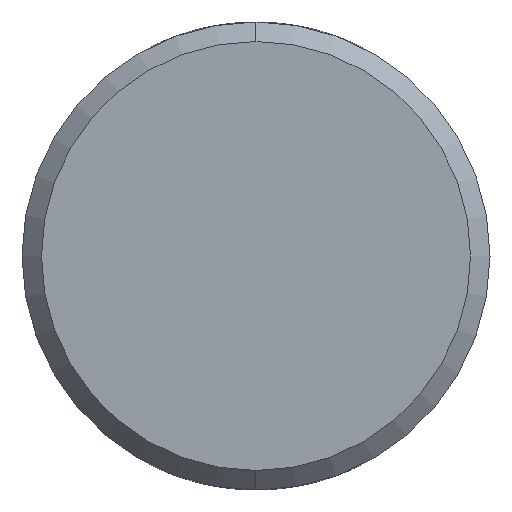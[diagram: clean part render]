
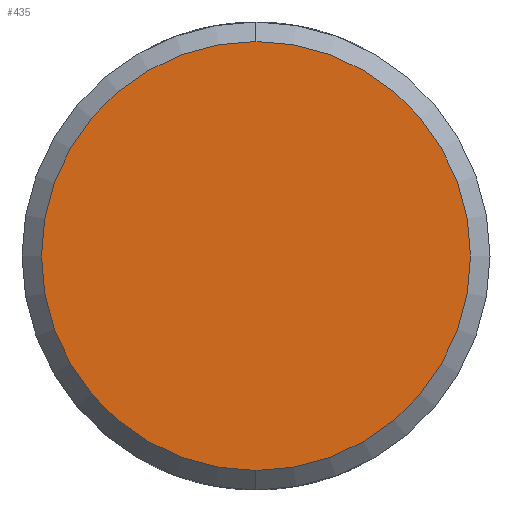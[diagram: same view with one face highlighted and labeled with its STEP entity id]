
A CAD part, left-side view. The second image highlights one B-rep face of the part: STEP entity #435.
In plain terms, the highlighted planar face has unit normal (-1, 0, 0).
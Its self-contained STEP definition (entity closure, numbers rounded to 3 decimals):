
#91 = ORIENTED_EDGE ( 'NONE', *, *, #487, .T. ) ;
#128 = DIRECTION ( 'NONE',  ( 0., 0., -1. ) ) ;
#225 = AXIS2_PLACEMENT_3D ( 'NONE', #528, #382, #603 ) ;
#252 = EDGE_CURVE ( 'NONE', #522, #640, #639, .T. ) ;
#266 = AXIS2_PLACEMENT_3D ( 'NONE', #564, #902, #328 ) ;
#298 = CARTESIAN_POINT ( 'NONE',  ( -29., 0., 5.5 ) ) ;
#328 = DIRECTION ( 'NONE',  ( 0., 0., -1. ) ) ;
#349 = EDGE_LOOP ( 'NONE', ( #91, #829 ) ) ;
#382 = DIRECTION ( 'NONE',  ( -1., 0., 0. ) ) ;
#435 = ADVANCED_FACE ( 'NONE', ( #602 ), #499, .F. ) ;
#487 = EDGE_CURVE ( 'NONE', #640, #522, #662, .T. ) ;
#499 = PLANE ( 'NONE',  #266 ) ;
#522 = VERTEX_POINT ( 'NONE', #298 ) ;
#528 = CARTESIAN_POINT ( 'NONE',  ( -29., 0., 0. ) ) ;
#564 = CARTESIAN_POINT ( 'NONE',  ( -29., 0., 0. ) ) ;
#602 = FACE_OUTER_BOUND ( 'NONE', #349, .T. ) ;
#603 = DIRECTION ( 'NONE',  ( 0., 0., -1. ) ) ;
#639 = CIRCLE ( 'NONE', #825, 5.5 ) ;
#640 = VERTEX_POINT ( 'NONE', #724 ) ;
#652 = CARTESIAN_POINT ( 'NONE',  ( -29., 0., 0. ) ) ;
#662 = CIRCLE ( 'NONE', #225, 5.5 ) ;
#724 = CARTESIAN_POINT ( 'NONE',  ( -29., 0., -5.5 ) ) ;
#811 = DIRECTION ( 'NONE',  ( -1., 0., 0. ) ) ;
#825 = AXIS2_PLACEMENT_3D ( 'NONE', #652, #811, #128 ) ;
#829 = ORIENTED_EDGE ( 'NONE', *, *, #252, .T. ) ;
#902 = DIRECTION ( 'NONE',  ( 1., 0., 0. ) ) ;
